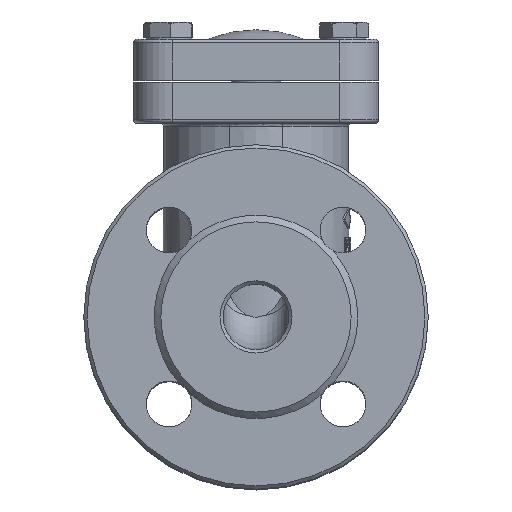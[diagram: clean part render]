
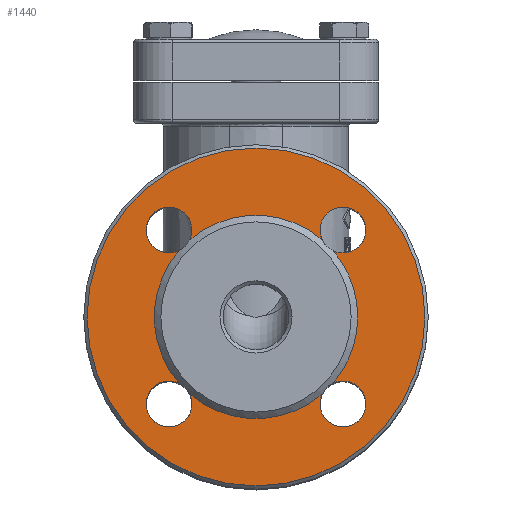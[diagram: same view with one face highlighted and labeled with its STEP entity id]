
A CAD part, top view. The second image highlights one B-rep face of the part: STEP entity #1440.
In plain terms, the highlighted planar face has unit normal (0, 0, 1).
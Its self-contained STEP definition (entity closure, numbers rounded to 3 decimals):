
#1440=ADVANCED_FACE('',(#5637,#5639),#5641,.T.);
#5637=FACE_BOUND('',#5638,.T.);
#5638=EDGE_LOOP('',(#7919));
#5639=FACE_BOUND('',#5640,.T.);
#5640=EDGE_LOOP('',(#7920,#7921,#7922,#7923,#7924,#7925,#7926,#7927,#7928,#7929,
#7930,#7931,#7932));
#5641=PLANE('',#5642);
#5642=AXIS2_PLACEMENT_3D('',#5643,#5644,#5645);
#5643=CARTESIAN_POINT('',(0.,0.,74.));
#5644=DIRECTION('',(0.,0.,1.));
#5645=DIRECTION('',(1.,0.,0.));
#7919=ORIENTED_EDGE('',*,*,#9200,.F.);
#7920=ORIENTED_EDGE('',*,*,#9201,.F.);
#7921=ORIENTED_EDGE('',*,*,#9192,.T.);
#7922=ORIENTED_EDGE('',*,*,#9194,.T.);
#7923=ORIENTED_EDGE('',*,*,#9202,.F.);
#7924=ORIENTED_EDGE('',*,*,#9189,.T.);
#7925=ORIENTED_EDGE('',*,*,#9191,.T.);
#7926=ORIENTED_EDGE('',*,*,#9203,.F.);
#7927=ORIENTED_EDGE('',*,*,#9186,.T.);
#7928=ORIENTED_EDGE('',*,*,#9188,.T.);
#7929=ORIENTED_EDGE('',*,*,#9204,.F.);
#7930=ORIENTED_EDGE('',*,*,#9205,.F.);
#7931=ORIENTED_EDGE('',*,*,#9195,.T.);
#7932=ORIENTED_EDGE('',*,*,#9197,.T.);
#9186=EDGE_CURVE('',#10260,#10261,#10262,.T.);
#9188=EDGE_CURVE('',#10261,#10263,#10265,.T.);
#9189=EDGE_CURVE('',#10266,#10267,#10268,.T.);
#9191=EDGE_CURVE('',#10267,#10269,#10271,.T.);
#9192=EDGE_CURVE('',#10272,#10273,#10274,.T.);
#9194=EDGE_CURVE('',#10273,#10275,#10277,.T.);
#9195=EDGE_CURVE('',#10278,#10279,#10280,.T.);
#9197=EDGE_CURVE('',#10279,#10281,#10283,.T.);
#9200=EDGE_CURVE('',#10288,#10288,#10289,.T.);
#9201=EDGE_CURVE('',#10272,#10281,#10290,.T.);
#9202=EDGE_CURVE('',#10266,#10275,#10291,.T.);
#9203=EDGE_CURVE('',#10260,#10269,#10292,.T.);
#9204=EDGE_CURVE('',#10293,#10263,#10294,.T.);
#9205=EDGE_CURVE('',#10278,#10293,#10295,.T.);
#10260=VERTEX_POINT('',#17854);
#10261=VERTEX_POINT('',#17855);
#10262=CIRCLE('',#17856,7.);
#10263=VERTEX_POINT('',#17860);
#10265=CIRCLE('',#17910,7.);
#10266=VERTEX_POINT('',#17914);
#10267=VERTEX_POINT('',#17915);
#10268=CIRCLE('',#17916,7.);
#10269=VERTEX_POINT('',#17920);
#10271=CIRCLE('',#17970,7.);
#10272=VERTEX_POINT('',#17974);
#10273=VERTEX_POINT('',#17975);
#10274=CIRCLE('',#17976,7.);
#10275=VERTEX_POINT('',#17980);
#10277=CIRCLE('',#18030,7.);
#10278=VERTEX_POINT('',#18034);
#10279=VERTEX_POINT('',#18035);
#10280=CIRCLE('',#18036,7.);
#10281=VERTEX_POINT('',#18040);
#10283=CIRCLE('',#18090,7.);
#10288=VERTEX_POINT('',#18104);
#10289=CIRCLE('',#18105,51.5);
#10290=CIRCLE('',#18109,31.);
#10291=CIRCLE('',#18113,31.);
#10292=CIRCLE('',#18117,31.);
#10293=VERTEX_POINT('',#18121);
#10294=CIRCLE('',#18122,31.);
#10295=CIRCLE('',#18126,31.);
#17854=CARTESIAN_POINT('',(20.188,23.526,74.));
#17855=CARTESIAN_POINT('',(33.517,26.517,74.));
#17856=AXIS2_PLACEMENT_3D('',#17857,#17858,#17859);
#17857=CARTESIAN_POINT('',(26.517,26.517,74.));
#17858=DIRECTION('',(0.,0.,-1.));
#17859=DIRECTION('',(-0.904,-0.427,0.));
#17860=CARTESIAN_POINT('',(23.526,20.188,74.));
#17910=AXIS2_PLACEMENT_3D('',#17911,#17912,#17913);
#17911=CARTESIAN_POINT('',(26.517,26.517,74.));
#17912=DIRECTION('',(0.,0.,-1.));
#17913=DIRECTION('',(1.,0.,0.));
#17914=CARTESIAN_POINT('',(-23.526,20.188,74.));
#17915=CARTESIAN_POINT('',(-19.517,26.517,74.));
#17916=AXIS2_PLACEMENT_3D('',#17917,#17918,#17919);
#17917=CARTESIAN_POINT('',(-26.517,26.517,74.));
#17918=DIRECTION('',(0.,0.,-1.));
#17919=DIRECTION('',(0.427,-0.904,0.));
#17920=CARTESIAN_POINT('',(-20.188,23.526,74.));
#17970=AXIS2_PLACEMENT_3D('',#17971,#17972,#17973);
#17971=CARTESIAN_POINT('',(-26.517,26.517,74.));
#17972=DIRECTION('',(0.,0.,-1.));
#17973=DIRECTION('',(1.,0.,0.));
#17974=CARTESIAN_POINT('',(-20.188,-23.526,74.));
#17975=CARTESIAN_POINT('',(-19.517,-26.517,74.));
#17976=AXIS2_PLACEMENT_3D('',#17977,#17978,#17979);
#17977=CARTESIAN_POINT('',(-26.517,-26.517,74.));
#17978=DIRECTION('',(0.,0.,-1.));
#17979=DIRECTION('',(0.904,0.427,0.));
#17980=CARTESIAN_POINT('',(-23.526,-20.188,74.));
#18030=AXIS2_PLACEMENT_3D('',#18031,#18032,#18033);
#18031=CARTESIAN_POINT('',(-26.517,-26.517,74.));
#18032=DIRECTION('',(0.,0.,-1.));
#18033=DIRECTION('',(1.,0.,0.));
#18034=CARTESIAN_POINT('',(23.526,-20.188,74.));
#18035=CARTESIAN_POINT('',(33.517,-26.517,74.));
#18036=AXIS2_PLACEMENT_3D('',#18037,#18038,#18039);
#18037=CARTESIAN_POINT('',(26.517,-26.517,74.));
#18038=DIRECTION('',(0.,0.,-1.));
#18039=DIRECTION('',(-0.427,0.904,0.));
#18040=CARTESIAN_POINT('',(20.188,-23.526,74.));
#18090=AXIS2_PLACEMENT_3D('',#18091,#18092,#18093);
#18091=CARTESIAN_POINT('',(26.517,-26.517,74.));
#18092=DIRECTION('',(0.,0.,-1.));
#18093=DIRECTION('',(1.,0.,0.));
#18104=CARTESIAN_POINT('',(51.5,0.,74.));
#18105=AXIS2_PLACEMENT_3D('',#18106,#18107,#18108);
#18106=CARTESIAN_POINT('',(0.,0.,74.));
#18107=DIRECTION('',(0.,0.,-1.));
#18108=DIRECTION('',(1.,0.,0.));
#18109=AXIS2_PLACEMENT_3D('',#18110,#18111,#18112);
#18110=CARTESIAN_POINT('',(0.,0.,74.));
#18111=DIRECTION('',(0.,0.,1.));
#18112=DIRECTION('',(-0.651,-0.759,0.));
#18113=AXIS2_PLACEMENT_3D('',#18114,#18115,#18116);
#18114=CARTESIAN_POINT('',(0.,0.,74.));
#18115=DIRECTION('',(0.,0.,1.));
#18116=DIRECTION('',(-0.759,0.651,0.));
#18117=AXIS2_PLACEMENT_3D('',#18118,#18119,#18120);
#18118=CARTESIAN_POINT('',(0.,0.,74.));
#18119=DIRECTION('',(0.,0.,1.));
#18120=DIRECTION('',(0.651,0.759,0.));
#18121=CARTESIAN_POINT('',(31.,0.,74.));
#18122=AXIS2_PLACEMENT_3D('',#18123,#18124,#18125);
#18123=CARTESIAN_POINT('',(0.,0.,74.));
#18124=DIRECTION('',(0.,0.,1.));
#18125=DIRECTION('',(1.,0.,0.));
#18126=AXIS2_PLACEMENT_3D('',#18127,#18128,#18129);
#18127=CARTESIAN_POINT('',(0.,0.,74.));
#18128=DIRECTION('',(0.,0.,1.));
#18129=DIRECTION('',(0.759,-0.651,0.));
